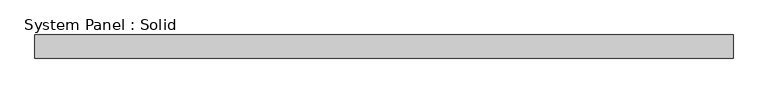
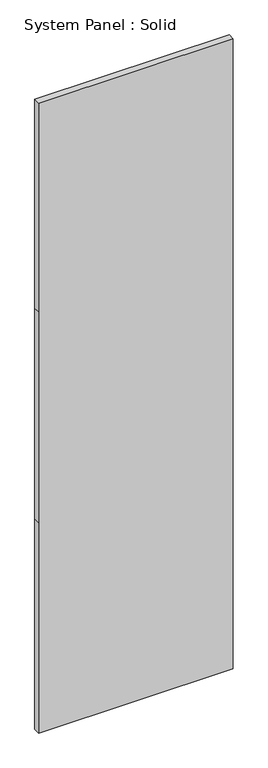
"""IFC4 building model written with IfcOpenShell, lengths in millimetres: plate geometry, System Panel : Solid."""

from ifc_helpers import new_model, si_unit, frame, origin, place, context, project, spatial, polyline, outline, extrude, source, transform, mapped, element, save


def system_panel_solid_573148bb(model_context):
    return source(origin(), model_context, "Body", "SweptSolid", [
        extrude(outline(polyline([(0.0, -525.0), (0.0, 525.0), (1200.0, 525.0), (2400.0, 525.0), (3590.0, 525.0), (3590.0, -525.0), (2400.0, -525.0), (1200.0, -525.0), (0.0, -525.0)])), frame((0.0, -2.5, 0.0), z_axis=(0.0, 1.0, 0.0), x_axis=(0.0, 0.0, 1.0)), (0.0, 0.0, 1.0), 35.0),
    ])


if __name__ == "__main__":
    model = new_model("IFC4")
    model_context = context("Model", 3, world=origin())
    ifc_project = project(units=[si_unit("LENGTHUNIT", "METRE", prefix="MILLI")], contexts=[model_context])
    site = spatial("IfcSite", under=ifc_project)
    building = spatial("IfcBuilding", under=site)
    placement = place(None, origin())
    system_panel_solid_shape = system_panel_solid_573148bb(model_context)
    element("IfcPlate", 1, ObjectType="System Panel : Solid", at=placement, inside=building, context=model_context, shape_type="MappedRepresentation", body=[
        mapped(system_panel_solid_shape, transform((0.0, 0.0, 0.0), x_axis=(1.0, 0.0, 0.0), y_axis=(0.0, 1.0, 0.0), z_axis=(0.0, 0.0, 1.0))),
    ])
    save(model, "model.ifc")
